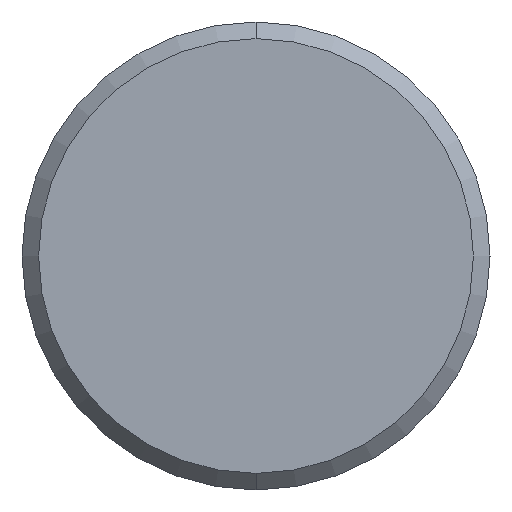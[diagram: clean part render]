
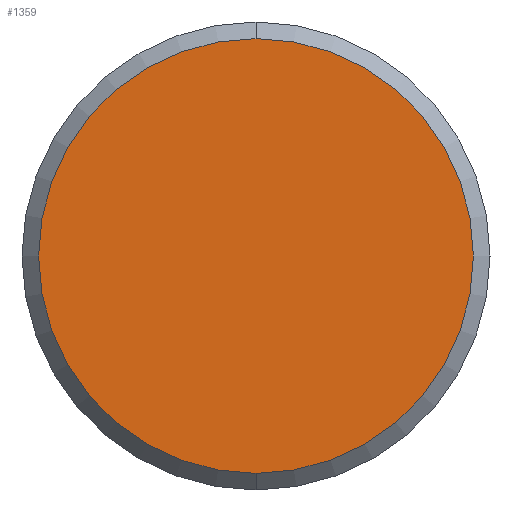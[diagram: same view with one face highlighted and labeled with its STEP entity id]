
A CAD part, front view. The second image highlights one B-rep face of the part: STEP entity #1359.
In plain terms, the highlighted planar face has unit normal (0, -1, 0).
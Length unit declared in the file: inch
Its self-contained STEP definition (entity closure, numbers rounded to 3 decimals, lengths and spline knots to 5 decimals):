
#65 = AXIS2_PLACEMENT_3D ( 'NONE', #1768, #1769, #1770 ) ;
#122 = AXIS2_PLACEMENT_3D ( 'NONE', #1935, #1934, #1936 ) ;
#123 = AXIS2_PLACEMENT_3D ( 'NONE', #1003, #1004, #1005 ) ;
#256 = EDGE_CURVE ( 'NONE', #1710, #1867, #725, .T. ) ;
#302 = EDGE_CURVE ( 'NONE', #1867, #1710, #772, .T. ) ;
#333 = CARTESIAN_POINT ( 'NONE',  ( -4.82377, -0.25588, 0.8175 ) ) ;
#643 = FACE_OUTER_BOUND ( 'NONE', #2003, .T. ) ;
#725 = CIRCLE ( 'NONE', #122, 0.8175 ) ;
#772 = CIRCLE ( 'NONE', #65, 0.8175 ) ;
#990 = PLANE ( 'NONE',  #123 ) ;
#1003 = CARTESIAN_POINT ( 'NONE',  ( -4.13977, -0.25588, 0. ) ) ;
#1004 = DIRECTION ( 'NONE',  ( 0., -1., 0. ) ) ;
#1005 = DIRECTION ( 'NONE',  ( 0., 0., -1. ) ) ;
#1359 = ADVANCED_FACE ( 'NONE', ( #643 ), #990, .T. ) ;
#1406 = ORIENTED_EDGE ( 'NONE', *, *, #256, .T. ) ;
#1407 = ORIENTED_EDGE ( 'NONE', *, *, #302, .T. ) ;
#1705 = CARTESIAN_POINT ( 'NONE',  ( -4.82377, -0.25588, -0.8175 ) ) ;
#1710 = VERTEX_POINT ( 'NONE', #1705 ) ;
#1768 = CARTESIAN_POINT ( 'NONE',  ( -4.82377, -0.25588, 0. ) ) ;
#1769 = DIRECTION ( 'NONE',  ( 0., -1., 0. ) ) ;
#1770 = DIRECTION ( 'NONE',  ( 0., 0., 1. ) ) ;
#1867 = VERTEX_POINT ( 'NONE', #333 ) ;
#1934 = DIRECTION ( 'NONE',  ( 0., -1., 0. ) ) ;
#1935 = CARTESIAN_POINT ( 'NONE',  ( -4.82377, -0.25588, 0. ) ) ;
#1936 = DIRECTION ( 'NONE',  ( 0., 0., 1. ) ) ;
#2003 = EDGE_LOOP ( 'NONE', ( #1407, #1406 ) ) ;
